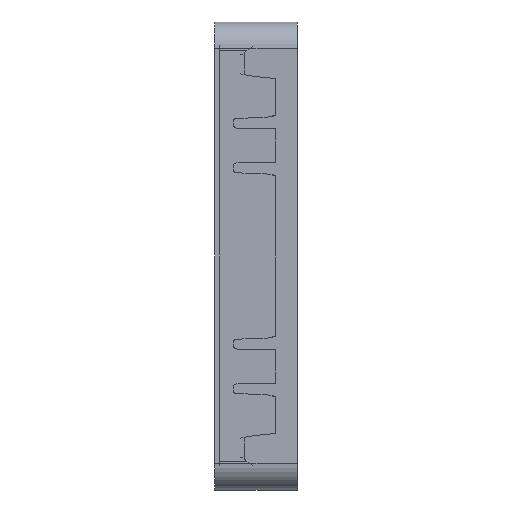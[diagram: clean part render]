
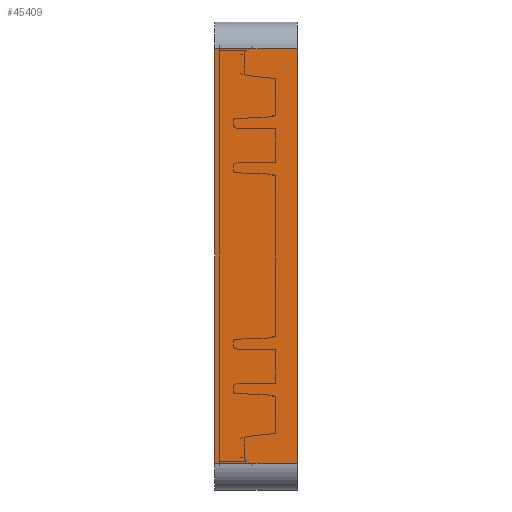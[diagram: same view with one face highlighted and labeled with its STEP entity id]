
A CAD part, left-side view. The second image highlights one B-rep face of the part: STEP entity #45409.
In plain terms, the highlighted planar face has unit normal (-1, 0, 0).
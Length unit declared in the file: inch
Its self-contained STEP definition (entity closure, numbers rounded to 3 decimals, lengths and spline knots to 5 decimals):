
#3599 = VECTOR ( 'NONE', #54977, 39.37008 ) ;
#4792 = ORIENTED_EDGE ( 'NONE', *, *, #7419, .F. ) ;
#5835 = EDGE_LOOP ( 'NONE', ( #9604, #4792, #38058, #35911 ) ) ;
#6439 = LINE ( 'NONE', #23183, #53622 ) ;
#7419 = EDGE_CURVE ( 'NONE', #39111, #26310, #6439, .T. ) ;
#8118 = EDGE_CURVE ( 'NONE', #39111, #55970, #43175, .T. ) ;
#9145 = CARTESIAN_POINT ( 'NONE',  ( -14.80549, 3.7, 9.33949 ) ) ;
#9604 = ORIENTED_EDGE ( 'NONE', *, *, #25931, .F. ) ;
#14183 = CARTESIAN_POINT ( 'NONE',  ( -14.80549, 0., 9.33949 ) ) ;
#19551 = AXIS2_PLACEMENT_3D ( 'NONE', #48434, #57328, #25739 ) ;
#19734 = CARTESIAN_POINT ( 'NONE',  ( -14.80549, 3.7, -9.33949 ) ) ;
#23183 = CARTESIAN_POINT ( 'NONE',  ( -14.80549, 3.7, 9.33949 ) ) ;
#23366 = DIRECTION ( 'NONE',  ( 0., 0., -1. ) ) ;
#25478 = VECTOR ( 'NONE', #23366, 39.37008 ) ;
#25739 = DIRECTION ( 'NONE',  ( 0., 0., 1. ) ) ;
#25931 = EDGE_CURVE ( 'NONE', #26310, #44825, #37663, .T. ) ;
#26310 = VERTEX_POINT ( 'NONE', #50431 ) ;
#35911 = ORIENTED_EDGE ( 'NONE', *, *, #59295, .T. ) ;
#37663 = LINE ( 'NONE', #14183, #25478 ) ;
#38058 = ORIENTED_EDGE ( 'NONE', *, *, #8118, .T. ) ;
#39111 = VERTEX_POINT ( 'NONE', #51106 ) ;
#41183 = DIRECTION ( 'NONE',  ( 0., 0., -1. ) ) ;
#43175 = LINE ( 'NONE', #9145, #44567 ) ;
#43419 = FACE_OUTER_BOUND ( 'NONE', #5835, .T. ) ;
#43906 = PLANE ( 'NONE',  #19551 ) ;
#44567 = VECTOR ( 'NONE', #41183, 39.37008 ) ;
#44825 = VERTEX_POINT ( 'NONE', #46338 ) ;
#45409 = ADVANCED_FACE ( 'NONE', ( #43419 ), #43906, .T. ) ;
#45864 = CARTESIAN_POINT ( 'NONE',  ( -14.80549, 3.7, -9.33949 ) ) ;
#46338 = CARTESIAN_POINT ( 'NONE',  ( -14.80549, 0., -9.33949 ) ) ;
#48434 = CARTESIAN_POINT ( 'NONE',  ( -14.80549, 3.7, 9.33949 ) ) ;
#50431 = CARTESIAN_POINT ( 'NONE',  ( -14.80549, 0., 9.33949 ) ) ;
#51106 = CARTESIAN_POINT ( 'NONE',  ( -14.80549, 3.7, 9.33949 ) ) ;
#52318 = LINE ( 'NONE', #45864, #3599 ) ;
#53622 = VECTOR ( 'NONE', #59357, 39.37008 ) ;
#54977 = DIRECTION ( 'NONE',  ( 0., -1., 0. ) ) ;
#55970 = VERTEX_POINT ( 'NONE', #19734 ) ;
#57328 = DIRECTION ( 'NONE',  ( -1., 0., 0. ) ) ;
#59295 = EDGE_CURVE ( 'NONE', #55970, #44825, #52318, .T. ) ;
#59357 = DIRECTION ( 'NONE',  ( 0., -1., 0. ) ) ;
